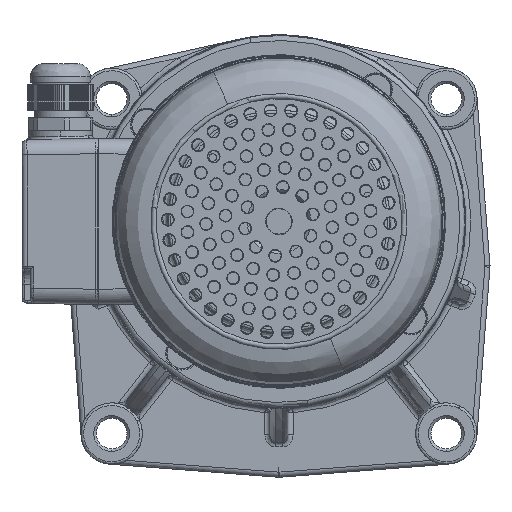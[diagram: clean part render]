
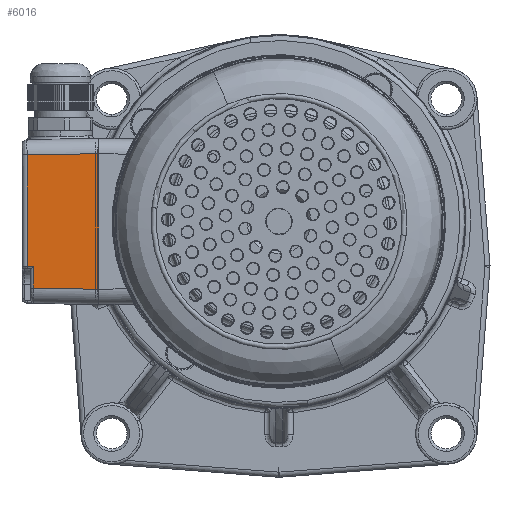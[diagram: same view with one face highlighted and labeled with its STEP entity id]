
A CAD part, front view. The second image highlights one B-rep face of the part: STEP entity #6016.
In plain terms, the highlighted planar face has unit normal (-0.018, -1, 0).
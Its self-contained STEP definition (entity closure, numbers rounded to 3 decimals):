
#46 = CARTESIAN_POINT ( 'NONE',  ( -65.522, -173.727, -26.352 ) ) ;
#690 = ORIENTED_EDGE ( 'NONE', *, *, #99836, .T. ) ;
#1333 = CARTESIAN_POINT ( 'NONE',  ( -74.028, -173.578, -26.204 ) ) ;
#1489 = CARTESIAN_POINT ( 'NONE',  ( -57.016, -173.875, -26.501 ) ) ;
#2631 = AXIS2_PLACEMENT_3D ( 'NONE', #33979, #34613, #73802 ) ;
#6016 = ADVANCED_FACE ( 'NONE', ( #23550 ), #75060, .T. ) ;
#6925 = ORIENTED_EDGE ( 'NONE', *, *, #36891, .T. ) ;
#8219 = B_SPLINE_CURVE_WITH_KNOTS ( 'NONE', 3,
 ( #47909, #59626, #118416, #39400 ),
 .UNSPECIFIED., .F., .F.,
 ( 4, 4 ),
 ( 0., 1. ),
 .UNSPECIFIED. ) ;
#10508 = CARTESIAN_POINT ( 'NONE',  ( -82.534, -173.43, -26.056 ) ) ;
#14402 = ORIENTED_EDGE ( 'NONE', *, *, #103888, .T. ) ;
#18367 = CARTESIAN_POINT ( 'NONE',  ( -85.051, -173.386, -17.473 ) ) ;
#18585 = B_SPLINE_CURVE_WITH_KNOTS ( 'NONE', 3,
 ( #10508, #1333, #46, #21552 ),
 .UNSPECIFIED., .F., .F.,
 ( 4, 4 ),
 ( 0., 1. ),
 .UNSPECIFIED. ) ;
#19778 = ORIENTED_EDGE ( 'NONE', *, *, #54437, .F. ) ;
#19855 = CARTESIAN_POINT ( 'NONE',  ( -82.534, -173.43, -20.363 ) ) ;
#21552 = CARTESIAN_POINT ( 'NONE',  ( -57.016, -173.875, -26.501 ) ) ;
#23550 = FACE_OUTER_BOUND ( 'NONE', #91823, .T. ) ;
#23704 = CARTESIAN_POINT ( 'NONE',  ( -57.016, -173.875, -8.834 ) ) ;
#28161 = CARTESIAN_POINT ( 'NONE',  ( -85.051, -173.386, 11.517 ) ) ;
#30262 = CARTESIAN_POINT ( 'NONE',  ( -82.534, -173.43, -26.056 ) ) ;
#32103 = VERTEX_POINT ( 'NONE', #36001 ) ;
#32194 = CARTESIAN_POINT ( 'NONE',  ( -57.016, -173.875, -26.501 ) ) ;
#32582 = ORIENTED_EDGE ( 'NONE', *, *, #66114, .T. ) ;
#33484 = CARTESIAN_POINT ( 'NONE',  ( -57.016, -173.875, 26.501 ) ) ;
#33979 = CARTESIAN_POINT ( 'NONE',  ( -86.453, -173.362, 29.151 ) ) ;
#34613 = DIRECTION ( 'NONE',  ( -0.017, -1., 0. ) ) ;
#35231 = B_SPLINE_CURVE_WITH_KNOTS ( 'NONE', 3,
 ( #120332, #19855, #49835, #30262 ),
 .UNSPECIFIED., .F., .F.,
 ( 4, 4 ),
 ( 0., 1. ),
 .UNSPECIFIED. ) ;
#36001 = CARTESIAN_POINT ( 'NONE',  ( -82.534, -173.43, -17.517 ) ) ;
#36891 = EDGE_CURVE ( 'NONE', #121911, #32103, #108372, .T. ) ;
#39400 = CARTESIAN_POINT ( 'NONE',  ( -57.016, -173.875, 26.501 ) ) ;
#46860 = CARTESIAN_POINT ( 'NONE',  ( -84.212, -173.401, -17.488 ) ) ;
#47909 = CARTESIAN_POINT ( 'NONE',  ( -85.051, -173.386, 26.012 ) ) ;
#49835 = CARTESIAN_POINT ( 'NONE',  ( -82.534, -173.43, -23.209 ) ) ;
#54437 = EDGE_CURVE ( 'NONE', #121862, #88927, #73231, .T. ) ;
#56774 = B_SPLINE_CURVE_WITH_KNOTS ( 'NONE', 3,
 ( #117588, #28161, #67963, #18367 ),
 .UNSPECIFIED., .F., .F.,
 ( 4, 4 ),
 ( 0., 1. ),
 .UNSPECIFIED. ) ;
#59626 = CARTESIAN_POINT ( 'NONE',  ( -75.706, -173.549, 26.175 ) ) ;
#62828 = VERTEX_POINT ( 'NONE', #112030 ) ;
#64134 = CARTESIAN_POINT ( 'NONE',  ( -57.016, -173.875, 8.834 ) ) ;
#66114 = EDGE_CURVE ( 'NONE', #32103, #102012, #35231, .T. ) ;
#67963 = CARTESIAN_POINT ( 'NONE',  ( -85.051, -173.386, -2.978 ) ) ;
#73231 = B_SPLINE_CURVE_WITH_KNOTS ( 'NONE', 3,
 ( #33484, #64134, #23704, #32194 ),
 .UNSPECIFIED., .F., .F.,
 ( 4, 4 ),
 ( 0., 1. ),
 .UNSPECIFIED. ) ;
#73802 = DIRECTION ( 'NONE',  ( 0., 0., -1. ) ) ;
#74561 = CARTESIAN_POINT ( 'NONE',  ( -82.534, -173.43, -26.056 ) ) ;
#75060 = PLANE ( 'NONE',  #2631 ) ;
#76209 = CARTESIAN_POINT ( 'NONE',  ( -57.016, -173.875, 26.501 ) ) ;
#88927 = VERTEX_POINT ( 'NONE', #1489 ) ;
#91823 = EDGE_LOOP ( 'NONE', ( #127351, #14402, #6925, #32582, #690, #19778 ) ) ;
#97742 = CARTESIAN_POINT ( 'NONE',  ( -83.373, -173.415, -17.503 ) ) ;
#98392 = CARTESIAN_POINT ( 'NONE',  ( -85.051, -173.386, -17.473 ) ) ;
#99836 = EDGE_CURVE ( 'NONE', #102012, #88927, #18585, .T. ) ;
#102012 = VERTEX_POINT ( 'NONE', #74561 ) ;
#103888 = EDGE_CURVE ( 'NONE', #62828, #121911, #56774, .T. ) ;
#108372 = B_SPLINE_CURVE_WITH_KNOTS ( 'NONE', 3,
 ( #98392, #46860, #97742, #127811 ),
 .UNSPECIFIED., .F., .F.,
 ( 4, 4 ),
 ( 0., 1. ),
 .UNSPECIFIED. ) ;
#112030 = CARTESIAN_POINT ( 'NONE',  ( -85.051, -173.386, 26.012 ) ) ;
#113334 = EDGE_CURVE ( 'NONE', #62828, #121862, #8219, .T. ) ;
#116686 = CARTESIAN_POINT ( 'NONE',  ( -85.051, -173.386, -17.473 ) ) ;
#117588 = CARTESIAN_POINT ( 'NONE',  ( -85.051, -173.386, 26.012 ) ) ;
#118416 = CARTESIAN_POINT ( 'NONE',  ( -66.361, -173.712, 26.338 ) ) ;
#120332 = CARTESIAN_POINT ( 'NONE',  ( -82.534, -173.43, -17.517 ) ) ;
#121862 = VERTEX_POINT ( 'NONE', #76209 ) ;
#121911 = VERTEX_POINT ( 'NONE', #116686 ) ;
#127351 = ORIENTED_EDGE ( 'NONE', *, *, #113334, .F. ) ;
#127811 = CARTESIAN_POINT ( 'NONE',  ( -82.534, -173.43, -17.517 ) ) ;
